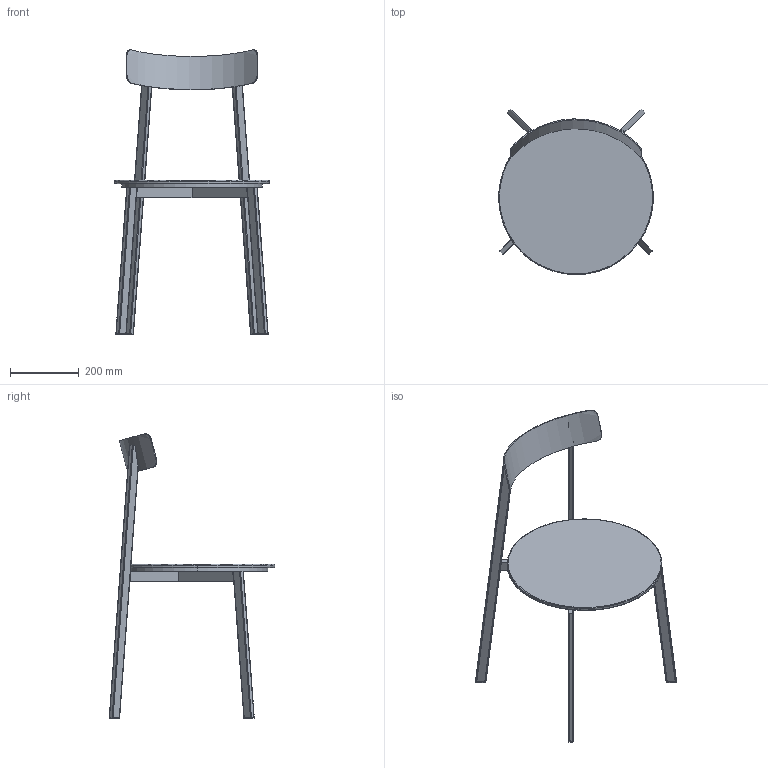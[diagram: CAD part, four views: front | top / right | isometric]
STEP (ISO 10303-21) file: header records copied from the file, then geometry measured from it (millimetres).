
FILE_DESCRIPTION(/* description */ (''),/* implementation_level */ '2;1');
FILE_NAME(/* name */ 'PUNKTD~1',/* time_stamp */ '2025-01-29T14:12:52+01:00',/* author */ (''),/* organization */ (''),/* preprocessor_version */ 'ST-DEVELOPER v16.5',/* originating_system */ '',/* authorisation */ '');
FILE_SCHEMA (('AUTOMOTIVE_DESIGN'));
Length unit declared in the file: millimetre
Products named in the file (1): Document
Bounding box: 450 x 481.85 x 828.14 mm (x, y, z)
Volume: 3742911 mm3; surface area: 908888.8 mm2
Topology: 13 solids, 13 shells, 159 faces, 384 edges, 259 vertices
Faces by surface type: bspline 92, plane 67
Entity records: 8957 total; most frequent: CARTESIAN_POINT 6433, ORIENTED_EDGE 760, EDGE_CURVE 380, B_SPLINE_CURVE_WITH_KNOTS 333, VERTEX_POINT 252, EDGE_LOOP 164, ADVANCED_FACE 159, FACE_OUTER_BOUND 159
